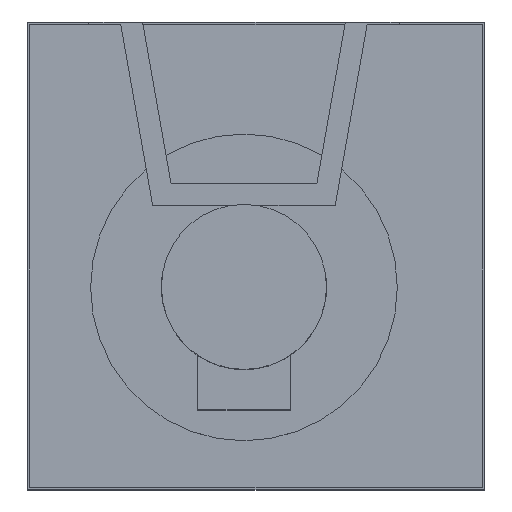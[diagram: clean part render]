
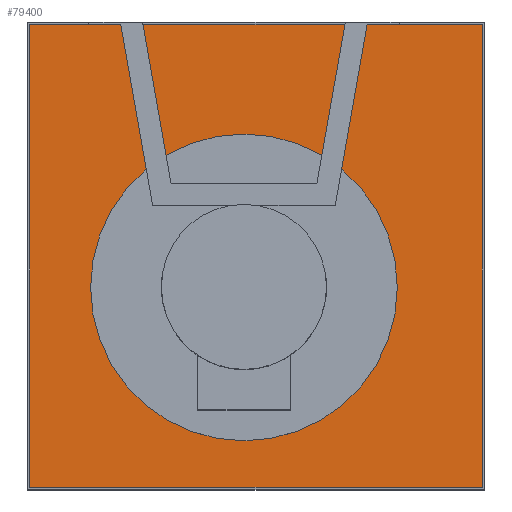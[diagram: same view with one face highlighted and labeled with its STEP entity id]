
A CAD part, top view. The second image highlights one B-rep face of the part: STEP entity #79400.
In plain terms, the highlighted planar face has unit normal (0, 0, 1).
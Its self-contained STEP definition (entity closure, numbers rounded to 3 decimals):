
#401=FACE_BOUND('',#6767,.T.);
#1875=CIRCLE('',#83163,210.);
#3010=FACE_OUTER_BOUND('',#6766,.T.);
#6766=EDGE_LOOP('',(#50655,#50656,#50657,#50658));
#6767=EDGE_LOOP('',(#50659));
#12032=LINE('',#104714,#22090);
#12033=LINE('',#104716,#22091);
#12034=LINE('',#104718,#22092);
#12035=LINE('',#104719,#22093);
#22090=VECTOR('',#87012,10.);
#22091=VECTOR('',#87013,10.);
#22092=VECTOR('',#87014,10.);
#22093=VECTOR('',#87015,10.);
#32151=VERTEX_POINT('',#104707);
#32153=VERTEX_POINT('',#104712);
#32154=VERTEX_POINT('',#104713);
#32155=VERTEX_POINT('',#104715);
#32156=VERTEX_POINT('',#104717);
#39517=EDGE_CURVE('',#32151,#32151,#1875,.T.);
#39519=EDGE_CURVE('',#32153,#32154,#12032,.T.);
#39520=EDGE_CURVE('',#32154,#32155,#12033,.T.);
#39521=EDGE_CURVE('',#32155,#32156,#12034,.T.);
#39522=EDGE_CURVE('',#32156,#32153,#12035,.T.);
#50655=ORIENTED_EDGE('',*,*,#39519,.T.);
#50656=ORIENTED_EDGE('',*,*,#39520,.T.);
#50657=ORIENTED_EDGE('',*,*,#39521,.T.);
#50658=ORIENTED_EDGE('',*,*,#39522,.T.);
#50659=ORIENTED_EDGE('',*,*,#39517,.T.);
#72805=PLANE('',#83165);
#79400=ADVANCED_FACE('',(#3010,#401),#72805,.T.);
#83163=AXIS2_PLACEMENT_3D('',#104708,#87006,#87007);
#83165=AXIS2_PLACEMENT_3D('',#104711,#87010,#87011);
#87006=DIRECTION('center_axis',(0.,0.,
-1.));
#87007=DIRECTION('ref_axis',(-1.,0.,0.));
#87010=DIRECTION('center_axis',(0.,0.,
1.));
#87011=DIRECTION('ref_axis',(-1.,0.,0.));
#87012=DIRECTION('',(-1.,0.,0.));
#87013=DIRECTION('',(0.,-1.,0.));
#87014=DIRECTION('',(1.,0.,0.));
#87015=DIRECTION('',(0.,1.,0.));
#104707=CARTESIAN_POINT('',(210.,0.,223.));
#104708=CARTESIAN_POINT('Origin',(0.,0.,
223.));
#104711=CARTESIAN_POINT('Origin',(-276.558,349.5,223.));
#104712=CARTESIAN_POINT('',(326.,360.,223.));
#104713=CARTESIAN_POINT('',(-293.,360.,223.));
#104714=CARTESIAN_POINT('',(16.5,360.,223.));
#104715=CARTESIAN_POINT('',(-293.,-274.,223.));
#104716=CARTESIAN_POINT('',(-293.,43.,223.));
#104717=CARTESIAN_POINT('',(326.,-274.,223.));
#104718=CARTESIAN_POINT('',(16.5,-274.,223.));
#104719=CARTESIAN_POINT('',(326.,43.,223.));
